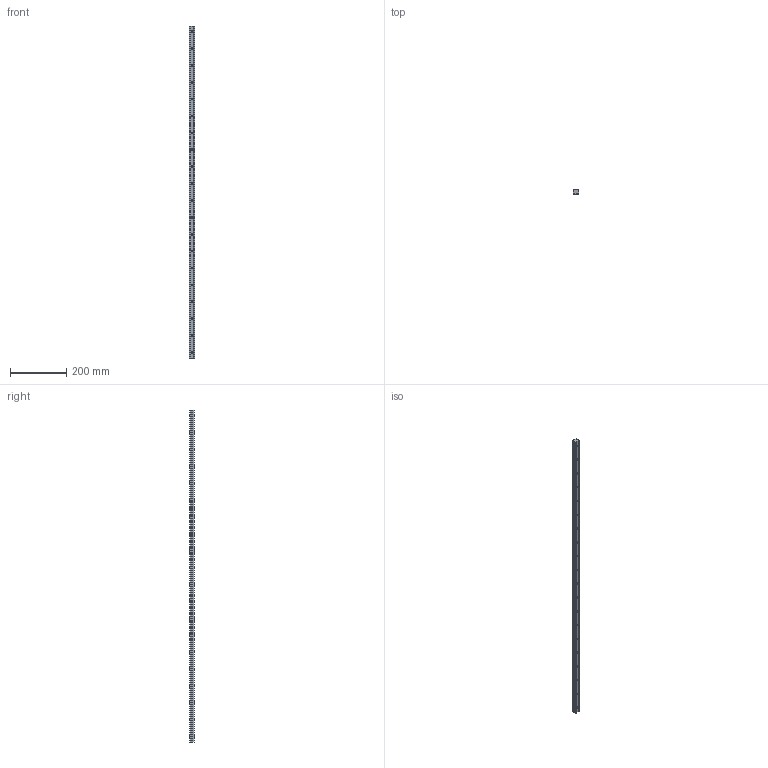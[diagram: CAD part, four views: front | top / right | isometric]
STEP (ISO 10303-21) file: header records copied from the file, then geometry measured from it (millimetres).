
FILE_DESCRIPTION (( 'STEP AP203' ), '1' );
FILE_NAME ('L1016.BL20-1180.step', '2019-06-12T11:48:35', ( '' ), ( '' ), 'SwSTEP 2.0', 'SolidWorks 2017', '' );
FILE_SCHEMA (( 'CONFIG_CONTROL_DESIGN' ));
Length unit declared in the file: millimetre
Products named in the file (1): L1016.BL20-1180
Bounding box: 20 x 16.3 x 1180 mm (x, y, z)
Volume: 327848.5 mm3; surface area: 95328.3 mm2
Topology: 1 solids, 1 shells, 126 faces, 312 edges, 208 vertices
Faces by surface type: cylinder 84, plane 42
Entity records: 3981 total; most frequent: DIRECTION 734, CARTESIAN_POINT 647, ORIENTED_EDGE 624, EDGE_CURVE 312, AXIS2_PLACEMENT_3D 295, VERTEX_POINT 208, EDGE_LOOP 186, CIRCLE 168
